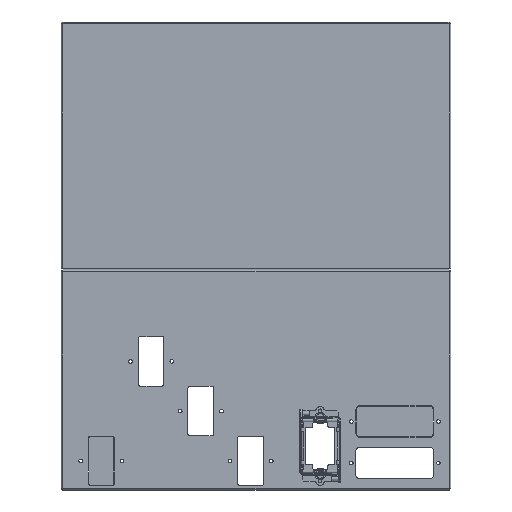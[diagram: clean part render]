
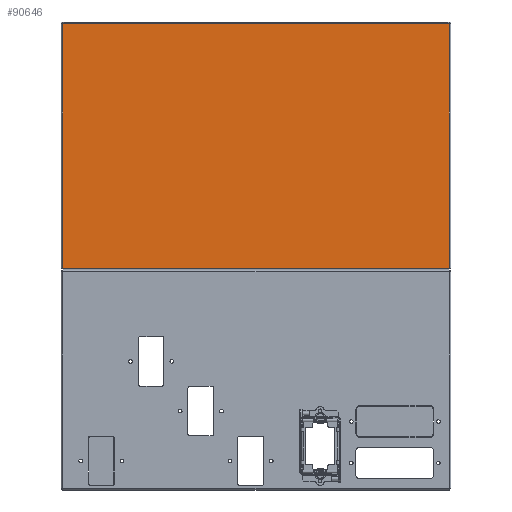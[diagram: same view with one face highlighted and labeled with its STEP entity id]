
A CAD part, top view. The second image highlights one B-rep face of the part: STEP entity #90646.
In plain terms, the highlighted planar face has unit normal (0, 0, 1).
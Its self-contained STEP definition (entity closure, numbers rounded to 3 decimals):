
#89981=CARTESIAN_POINT(' ',(-232.9,147.5,0.));
#89986=DIRECTION(' ',(0.,-1.,0.));
#89991=VECTOR(' ',#89986,1.);
#89996=LINE('',#89981,#89991);
#90001=CARTESIAN_POINT(' ',(-232.9,147.5,0.));
#90002=VERTEX_POINT(' ',#90001);
#90006=CARTESIAN_POINT(' ',(-232.9,-147.5,0.));
#90007=VERTEX_POINT(' ',#90006);
#90011=EDGE_CURVE(' ',#90002,#90007,#89996,.T.);
#90506=DIRECTION(' ',(0.,-0.,1.));
#90511=CARTESIAN_POINT(' ',(-232.9,-147.5,0.));
#90516=DIRECTION(' ',(1.,0.,-0.));
#90521=AXIS2_PLACEMENT_3D(' ',#90511,#90506,#90516);
#90526=PLANE('NONE',#90521);
#90531=ORIENTED_EDGE(' ',*,*,#90011,.T.);
#90536=CARTESIAN_POINT(' ',(-232.9,-147.5,0.));
#90541=DIRECTION(' ',(1.,0.,0.));
#90546=VECTOR(' ',#90541,1.);
#90551=LINE('',#90536,#90546);
#90556=CARTESIAN_POINT(' ',(232.9,-147.5,0.));
#90557=VERTEX_POINT(' ',#90556);
#90561=EDGE_CURVE(' ',#90007,#90557,#90551,.T.);
#90566=ORIENTED_EDGE(' ',*,*,#90561,.T.);
#90571=CARTESIAN_POINT(' ',(232.9,-147.5,0.));
#90576=DIRECTION(' ',(0.,1.,0.));
#90581=VECTOR(' ',#90576,1.);
#90586=LINE('',#90571,#90581);
#90591=CARTESIAN_POINT(' ',(232.9,147.5,0.));
#90592=VERTEX_POINT(' ',#90591);
#90596=EDGE_CURVE(' ',#90557,#90592,#90586,.T.);
#90601=ORIENTED_EDGE(' ',*,*,#90596,.T.);
#90606=CARTESIAN_POINT(' ',(232.9,147.5,0.));
#90611=DIRECTION(' ',(-1.,0.,0.));
#90616=VECTOR(' ',#90611,1.);
#90621=LINE('',#90606,#90616);
#90626=EDGE_CURVE(' ',#90592,#90002,#90621,.T.);
#90631=ORIENTED_EDGE(' ',*,*,#90626,.T.);
#90636=EDGE_LOOP(' ',(#90531,#90566,#90601,#90631));
#90641=FACE_OUTER_BOUND(' ',#90636,.T.);
#90646=ADVANCED_FACE('NONE',(#90641),#90526,.T.);
